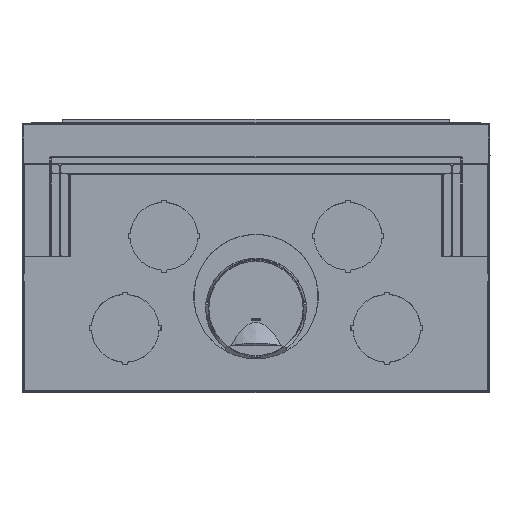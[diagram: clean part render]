
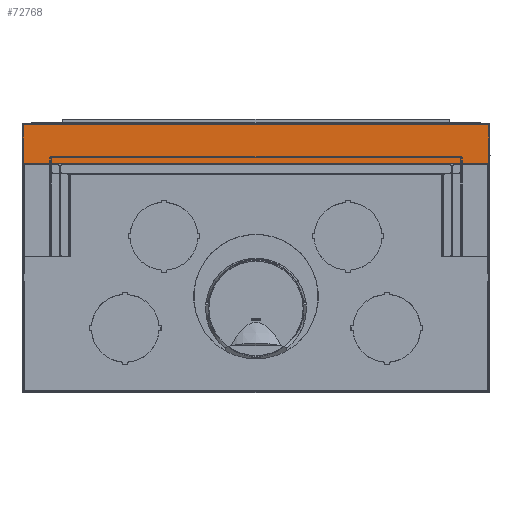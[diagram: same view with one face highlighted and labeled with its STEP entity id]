
A CAD part, top view. The second image highlights one B-rep face of the part: STEP entity #72768.
In plain terms, the highlighted planar face has unit normal (0, 0, 1).
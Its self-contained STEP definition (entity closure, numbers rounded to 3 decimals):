
#3318=CIRCLE('',#77503,0.6);
#3319=CIRCLE('',#77504,0.6);
#6272=FACE_OUTER_BOUND('',#10254,.T.);
#10254=EDGE_LOOP('',(#51914,#51915,#51916,#51917,#51918,#51919));
#15797=LINE('',#110487,#23160);
#15798=LINE('',#110491,#23161);
#15799=LINE('',#110493,#23162);
#15800=LINE('',#110494,#23163);
#23160=VECTOR('',#88732,95.072);
#23161=VECTOR('',#88735,7.425);
#23162=VECTOR('',#88736,96.272);
#23163=VECTOR('',#88737,7.425);
#30196=VERTEX_POINT('',#110483);
#30197=VERTEX_POINT('',#110484);
#30198=VERTEX_POINT('',#110486);
#30199=VERTEX_POINT('',#110488);
#30200=VERTEX_POINT('',#110490);
#30201=VERTEX_POINT('',#110492);
#38128=EDGE_CURVE('',#30196,#30197,#3318,.T.);
#38129=EDGE_CURVE('',#30196,#30198,#15797,.T.);
#38130=EDGE_CURVE('',#30199,#30198,#3319,.T.);
#38131=EDGE_CURVE('',#30200,#30199,#15798,.T.);
#38132=EDGE_CURVE('',#30200,#30201,#15799,.T.);
#38133=EDGE_CURVE('',#30197,#30201,#15800,.T.);
#51914=ORIENTED_EDGE('',*,*,#38128,.F.);
#51915=ORIENTED_EDGE('',*,*,#38129,.T.);
#51916=ORIENTED_EDGE('',*,*,#38130,.F.);
#51917=ORIENTED_EDGE('',*,*,#38131,.F.);
#51918=ORIENTED_EDGE('',*,*,#38132,.T.);
#51919=ORIENTED_EDGE('',*,*,#38133,.F.);
#66830=PLANE('',#77502);
#72768=ADVANCED_FACE('',(#6272),#66830,.T.);
#77502=AXIS2_PLACEMENT_3D('',#110482,#88728,#88729);
#77503=AXIS2_PLACEMENT_3D('',#110485,#88730,#88731);
#77504=AXIS2_PLACEMENT_3D('',#110489,#88733,#88734);
#88728=DIRECTION('center_axis',(0.,0.,
1.));
#88729=DIRECTION('ref_axis',(-1.,0.,0.));
#88730=DIRECTION('center_axis',(0.,0.,
-1.));
#88731=DIRECTION('ref_axis',(-0.707,-0.707,0.));
#88732=DIRECTION('',(1.,0.,0.));
#88733=DIRECTION('center_axis',(0.,0.,
-1.));
#88734=DIRECTION('ref_axis',(0.707,-0.707,0.));
#88735=DIRECTION('',(0.,-1.,0.));
#88736=DIRECTION('',(-1.,0.,0.));
#88737=DIRECTION('',(0.,1.,0.));
#110482=CARTESIAN_POINT('Origin',(0.,23.618,
97.));
#110483=CARTESIAN_POINT('',(-47.536,-2.35,97.));
#110484=CARTESIAN_POINT('',(-48.136,-1.75,97.));
#110485=CARTESIAN_POINT('Origin',(-47.536,-1.75,97.));
#110486=CARTESIAN_POINT('',(47.536,-2.35,97.));
#110487=CARTESIAN_POINT('',(-48.3,-2.35,97.));
#110488=CARTESIAN_POINT('',(48.136,-1.75,97.));
#110489=CARTESIAN_POINT('Origin',(47.536,-1.75,97.));
#110490=CARTESIAN_POINT('',(48.136,5.675,97.));
#110491=CARTESIAN_POINT('',(48.136,12.64,97.));
#110492=CARTESIAN_POINT('',(-48.136,5.675,97.));
#110493=CARTESIAN_POINT('',(0.,5.675,97.));
#110494=CARTESIAN_POINT('',(-48.136,12.64,97.));
